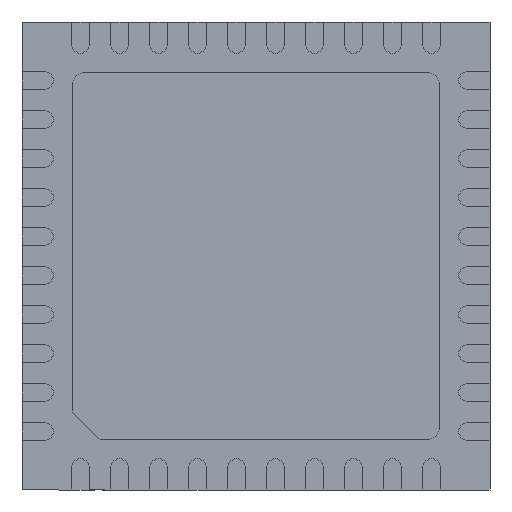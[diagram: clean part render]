
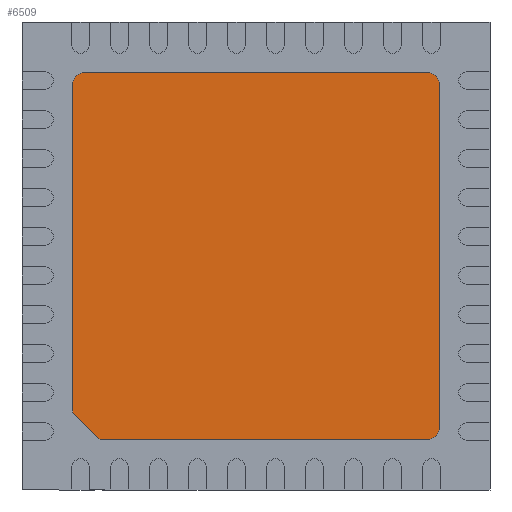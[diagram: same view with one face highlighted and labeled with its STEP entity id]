
A CAD part, front view. The second image highlights one B-rep face of the part: STEP entity #6509.
In plain terms, the highlighted planar face has unit normal (0, -1, 0).
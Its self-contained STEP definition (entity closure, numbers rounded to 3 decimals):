
#1680 = CIRCLE ( 'NONE', #7704, 0.15 ) ;
#1794 = EDGE_CURVE ( 'NONE', #8437, #9240, #1680, .T. ) ;
#2270 = CARTESIAN_POINT ( 'NONE',  ( -2.35, 0., -2. ) ) ;
#2345 = ORIENTED_EDGE ( 'NONE', *, *, #4764, .T. ) ;
#2835 = CARTESIAN_POINT ( 'NONE',  ( 2.2, 0., -2.2 ) ) ;
#2846 = DIRECTION ( 'NONE',  ( -1., 0., 0. ) ) ;
#2898 = AXIS2_PLACEMENT_3D ( 'NONE', #2835, #9858, #5326 ) ;
#2986 = CARTESIAN_POINT ( 'NONE',  ( -2.175, 0., -2.175 ) ) ;
#3148 = VECTOR ( 'NONE', #14504, 1000. ) ;
#3319 = ORIENTED_EDGE ( 'NONE', *, *, #8149, .T. ) ;
#3545 = EDGE_CURVE ( 'NONE', #9657, #13542, #5727, .T. ) ;
#3571 = ORIENTED_EDGE ( 'NONE', *, *, #1794, .T. ) ;
#3908 = ORIENTED_EDGE ( 'NONE', *, *, #7624, .T. ) ;
#4224 = CARTESIAN_POINT ( 'NONE',  ( 2.35, 0., 2.2 ) ) ;
#4274 = LINE ( 'NONE', #14301, #5355 ) ;
#4304 = DIRECTION ( 'NONE',  ( 0., -1., 0. ) ) ;
#4458 = VERTEX_POINT ( 'NONE', #10439 ) ;
#4764 = EDGE_CURVE ( 'NONE', #9240, #6069, #14715, .T. ) ;
#5100 = AXIS2_PLACEMENT_3D ( 'NONE', #14371, #8657, #13234 ) ;
#5101 = LINE ( 'NONE', #2986, #8226 ) ;
#5238 = VERTEX_POINT ( 'NONE', #4224 ) ;
#5323 = DIRECTION ( 'NONE',  ( 0.707, 0., -0.707 ) ) ;
#5326 = DIRECTION ( 'NONE',  ( 0., 0., -1. ) ) ;
#5355 = VECTOR ( 'NONE', #2846, 1000. ) ;
#5489 = CIRCLE ( 'NONE', #10307, 0.15 ) ;
#5727 = LINE ( 'NONE', #6793, #6100 ) ;
#5729 = ORIENTED_EDGE ( 'NONE', *, *, #14272, .T. ) ;
#5896 = VECTOR ( 'NONE', #10277, 1000. ) ;
#6044 = EDGE_LOOP ( 'NONE', ( #3908, #3571, #2345, #3319, #11143, #14542, #8285, #5729 ) ) ;
#6069 = VERTEX_POINT ( 'NONE', #2270 ) ;
#6100 = VECTOR ( 'NONE', #6873, 1000. ) ;
#6440 = LINE ( 'NONE', #11039, #3148 ) ;
#6509 = ADVANCED_FACE ( 'NONE', ( #13154 ), #9718, .T. ) ;
#6525 = CIRCLE ( 'NONE', #2898, 0.15 ) ;
#6793 = CARTESIAN_POINT ( 'NONE',  ( 2.35, 0., -2.35 ) ) ;
#6873 = DIRECTION ( 'NONE',  ( 1., 0., 0. ) ) ;
#7196 = DIRECTION ( 'NONE',  ( 0., 0., -1. ) ) ;
#7624 = EDGE_CURVE ( 'NONE', #9472, #8437, #4274, .T. ) ;
#7704 = AXIS2_PLACEMENT_3D ( 'NONE', #11710, #8101, #7196 ) ;
#7790 = CARTESIAN_POINT ( 'NONE',  ( -2.35, 0., -2.35 ) ) ;
#8101 = DIRECTION ( 'NONE',  ( 0., -1., 0. ) ) ;
#8149 = EDGE_CURVE ( 'NONE', #6069, #9657, #5101, .T. ) ;
#8226 = VECTOR ( 'NONE', #5323, 1000. ) ;
#8285 = ORIENTED_EDGE ( 'NONE', *, *, #9782, .T. ) ;
#8437 = VERTEX_POINT ( 'NONE', #14326 ) ;
#8484 = CARTESIAN_POINT ( 'NONE',  ( -2., 0., -2.35 ) ) ;
#8499 = CARTESIAN_POINT ( 'NONE',  ( -2.35, 0., 2.2 ) ) ;
#8657 = DIRECTION ( 'NONE',  ( 0., -1., 0. ) ) ;
#9240 = VERTEX_POINT ( 'NONE', #8499 ) ;
#9363 = EDGE_CURVE ( 'NONE', #13542, #4458, #6525, .T. ) ;
#9472 = VERTEX_POINT ( 'NONE', #14825 ) ;
#9657 = VERTEX_POINT ( 'NONE', #8484 ) ;
#9718 = PLANE ( 'NONE',  #5100 ) ;
#9782 = EDGE_CURVE ( 'NONE', #4458, #5238, #6440, .T. ) ;
#9858 = DIRECTION ( 'NONE',  ( 0., -1., 0. ) ) ;
#10266 = DIRECTION ( 'NONE',  ( 0., 0., -1. ) ) ;
#10277 = DIRECTION ( 'NONE',  ( 0., 0., -1. ) ) ;
#10307 = AXIS2_PLACEMENT_3D ( 'NONE', #11398, #4304, #10266 ) ;
#10439 = CARTESIAN_POINT ( 'NONE',  ( 2.35, 0., -2.2 ) ) ;
#11039 = CARTESIAN_POINT ( 'NONE',  ( 2.35, 0., -2.35 ) ) ;
#11143 = ORIENTED_EDGE ( 'NONE', *, *, #3545, .T. ) ;
#11398 = CARTESIAN_POINT ( 'NONE',  ( 2.2, 0., 2.2 ) ) ;
#11710 = CARTESIAN_POINT ( 'NONE',  ( -2.2, 0., 2.2 ) ) ;
#12133 = CARTESIAN_POINT ( 'NONE',  ( 2.2, 0., -2.35 ) ) ;
#13154 = FACE_OUTER_BOUND ( 'NONE', #6044, .T. ) ;
#13234 = DIRECTION ( 'NONE',  ( 0., 0., -1. ) ) ;
#13542 = VERTEX_POINT ( 'NONE', #12133 ) ;
#14272 = EDGE_CURVE ( 'NONE', #5238, #9472, #5489, .T. ) ;
#14301 = CARTESIAN_POINT ( 'NONE',  ( 2.35, 0., 2.35 ) ) ;
#14326 = CARTESIAN_POINT ( 'NONE',  ( -2.2, 0., 2.35 ) ) ;
#14371 = CARTESIAN_POINT ( 'NONE',  ( 0., 0., 0. ) ) ;
#14504 = DIRECTION ( 'NONE',  ( 0., 0., 1. ) ) ;
#14542 = ORIENTED_EDGE ( 'NONE', *, *, #9363, .T. ) ;
#14715 = LINE ( 'NONE', #7790, #5896 ) ;
#14825 = CARTESIAN_POINT ( 'NONE',  ( 2.2, 0., 2.35 ) ) ;
